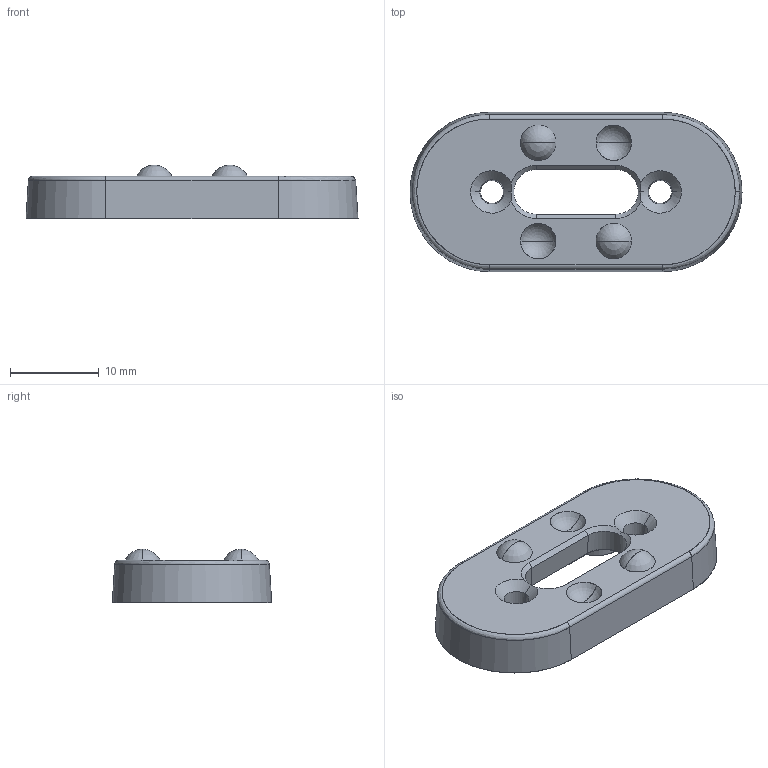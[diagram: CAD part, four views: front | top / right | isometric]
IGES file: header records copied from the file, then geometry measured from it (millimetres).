
Start section: SolidWorks IGES file using analytic representation for surfaces
Global section: file name: \\CODA-VM-SBS\RedirectedFolders\georged\My Documents\Coda\Mag Caps\Mag files\UP TO DATE\SD-MAGNETIC-SMALL.IGS; native system: SolidWorks 2022; preprocessor: SolidWorks 2022; author: GeorgeD; date: 230116.115224; units: millimetre
Bounding box: 37.5 x 18 x 6.05 mm (x, y, z)
Surface area: 1913.5 mm2 (no closed solid volume)
Topology: 0 solids, 0 shells, 119 faces, 1655 edges, 1647 vertices
Faces by surface type: revolution 62, bspline 57
